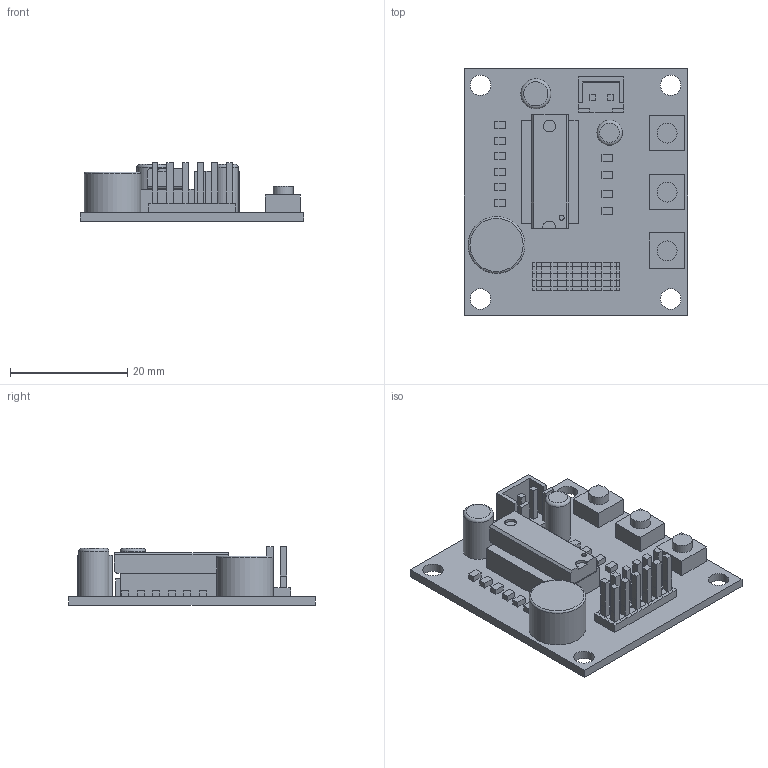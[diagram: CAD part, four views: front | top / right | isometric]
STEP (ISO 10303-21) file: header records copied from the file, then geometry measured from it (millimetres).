
FILE_DESCRIPTION(('FreeCAD Model'),'2;1');
FILE_NAME('C:/Users/HAMNIC/Documents/HAMBO ELEKTRONIK/ALARM PENUNJUNG WIRELESS V2/ISD.step','2019-08-30T23:18:43',('Author'),(''), 'Open CASCADE STEP processor 7.2','FreeCAD','Unknown');
FILE_SCHEMA(('AUTOMOTIVE_DESIGN { 1 0 10303 214 1 1 1 1 }'));
Length unit declared in the file: millimetre
Products named in the file (1): ISD001
Bounding box: 38 x 42 x 10 mm (x, y, z)
Volume: 4974.9 mm3; surface area: 5356.2 mm2
Topology: 1 solids, 1 shells, 282 faces, 659 edges, 405 vertices
Faces by surface type: plane 263, cylinder 16, torus 3
Full cylindrical faces by diameter (mm): 0.847 x1, 2.019 x1, 3.4 x3, 3.491 x4, 4.312 x1, 5.109 x1, 9.659 x1
Entity records: 18418 total; most frequent: CARTESIAN_POINT 2785, DIRECTION 2561, LINE 1907, VECTOR 1907, ORIENTED_EDGE 1318, PCURVE 1318, DEFINITIONAL_REPRESENTATION 1318, EDGE_CURVE 659
